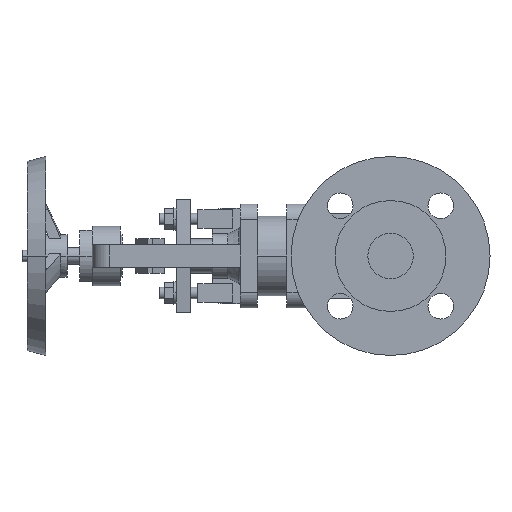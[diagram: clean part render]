
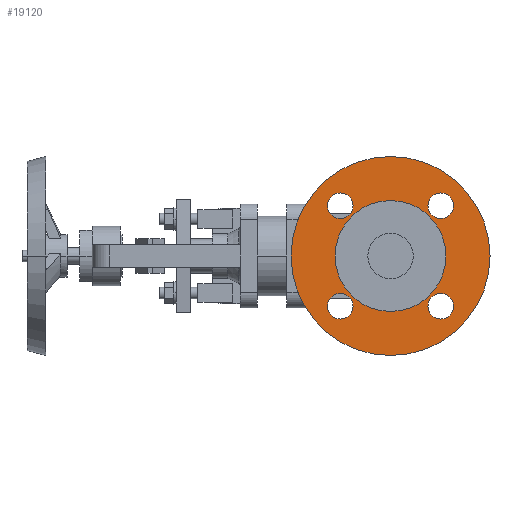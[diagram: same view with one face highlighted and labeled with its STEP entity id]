
A CAD part, left-side view. The second image highlights one B-rep face of the part: STEP entity #19120.
In plain terms, the highlighted planar face has unit normal (-1, 0, 0).
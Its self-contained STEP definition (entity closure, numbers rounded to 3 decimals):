
#610=CARTESIAN_POINT('',(2.,39.,0.));
#620=VERTEX_POINT('',#610);
#650=CARTESIAN_POINT('',(2.,0.,0.));
#660=DIRECTION('',(-1.,0.,0.));
#670=DIRECTION('',(0.,1.,0.));
#680=AXIS2_PLACEMENT_3D('',#650,#660,#670);
#690=CIRCLE('',#680,39.);
#700=CARTESIAN_POINT('',(2.,-39.,0.));
#710=VERTEX_POINT('',#700);
#720=EDGE_CURVE('',#710,#620,#690,.T.);
#3330=CARTESIAN_POINT('',(2.,0.,70.));
#3340=VERTEX_POINT('',#3330);
#3370=CARTESIAN_POINT('',(2.,0.,0.));
#3380=DIRECTION('',(1.,0.,0.));
#3390=DIRECTION('',(0.,0.,-1.));
#3400=AXIS2_PLACEMENT_3D('',#3370,#3380,#3390);
#3410=CIRCLE('',#3400,70.);
#3420=CARTESIAN_POINT('',(2.,0.,-70.));
#3430=VERTEX_POINT('',#3420);
#3440=EDGE_CURVE('',#3430,#3340,#3410,.T.);
#3820=CARTESIAN_POINT('',(2.,35.355,-26.355));
#3830=VERTEX_POINT('',#3820);
#3990=CARTESIAN_POINT('',(2.,35.355,-44.355));
#4000=VERTEX_POINT('',#3990);
#4030=CARTESIAN_POINT('',(2.,35.355,-35.355));
#4040=DIRECTION('',(1.,0.,0.));
#4050=DIRECTION('',(0.,0.,-1.));
#4060=AXIS2_PLACEMENT_3D('',#4030,#4040,#4050);
#4070=CIRCLE('',#4060,9.);
#4080=EDGE_CURVE('',#4000,#3830,#4070,.T.);
#4310=CARTESIAN_POINT('',(2.,-35.355,-44.355));
#4320=VERTEX_POINT('',#4310);
#4350=CARTESIAN_POINT('',(2.,-35.355,-35.355));
#4360=DIRECTION('',(1.,0.,0.));
#4370=DIRECTION('',(0.,0.,-1.));
#4380=AXIS2_PLACEMENT_3D('',#4350,#4360,#4370);
#4390=CIRCLE('',#4380,9.);
#4400=CARTESIAN_POINT('',(2.,-35.355,-26.355));
#4410=VERTEX_POINT('',#4400);
#4420=EDGE_CURVE('',#4320,#4410,#4390,.T.);
#4800=CARTESIAN_POINT('',(2.,35.355,26.355));
#4810=VERTEX_POINT('',#4800);
#4970=CARTESIAN_POINT('',(2.,35.355,44.355));
#4980=VERTEX_POINT('',#4970);
#5010=CARTESIAN_POINT('',(2.,35.355,35.355));
#5020=DIRECTION('',(1.,0.,0.));
#5030=DIRECTION('',(0.,0.,-1.));
#5040=AXIS2_PLACEMENT_3D('',#5010,#5020,#5030);
#5050=CIRCLE('',#5040,9.);
#5060=EDGE_CURVE('',#4980,#4810,#5050,.T.);
#5290=CARTESIAN_POINT('',(2.,-35.355,44.355));
#5300=VERTEX_POINT('',#5290);
#5460=CARTESIAN_POINT('',(2.,-35.355,26.355));
#5470=VERTEX_POINT('',#5460);
#5500=CARTESIAN_POINT('',(2.,-35.355,35.355));
#5510=DIRECTION('',(1.,0.,0.));
#5520=DIRECTION('',(0.,0.,-1.));
#5530=AXIS2_PLACEMENT_3D('',#5500,#5510,#5520);
#5540=CIRCLE('',#5530,9.);
#5550=EDGE_CURVE('',#5470,#5300,#5540,.T.);
#18770=CARTESIAN_POINT('',(2.,0.,0.));
#18780=DIRECTION('',(1.,0.,0.));
#18790=DIRECTION('',(0.,0.,-1.));
#18800=AXIS2_PLACEMENT_3D('',#18770,#18780,#18790);
#18810=PLANE('',#18800);
#18820=EDGE_CURVE('',#5300,#5470,#5540,.T.);
#18830=ORIENTED_EDGE('',*,*,#18820,.T.);
#18840=ORIENTED_EDGE('',*,*,#5550,.T.);
#18850=EDGE_LOOP('',(#18840,#18830));
#18860=FACE_BOUND('',#18850,.T.);
#18870=EDGE_CURVE('',#4810,#4980,#5050,.T.);
#18880=ORIENTED_EDGE('',*,*,#18870,.T.);
#18890=ORIENTED_EDGE('',*,*,#5060,.T.);
#18900=EDGE_LOOP('',(#18890,#18880));
#18910=FACE_BOUND('',#18900,.T.);
#18920=EDGE_CURVE('',#4410,#4320,#4390,.T.);
#18930=ORIENTED_EDGE('',*,*,#18920,.T.);
#18940=ORIENTED_EDGE('',*,*,#4420,.T.);
#18950=EDGE_LOOP('',(#18940,#18930));
#18960=FACE_BOUND('',#18950,.T.);
#18970=EDGE_CURVE('',#3830,#4000,#4070,.T.);
#18980=ORIENTED_EDGE('',*,*,#18970,.T.);
#18990=ORIENTED_EDGE('',*,*,#4080,.T.);
#19000=EDGE_LOOP('',(#18990,#18980));
#19010=FACE_BOUND('',#19000,.T.);
#19020=EDGE_CURVE('',#3340,#3430,#3410,.T.);
#19030=ORIENTED_EDGE('',*,*,#19020,.F.);
#19040=ORIENTED_EDGE('',*,*,#3440,.F.);
#19050=EDGE_LOOP('',(#19040,#19030));
#19060=FACE_OUTER_BOUND('',#19050,.T.);
#19070=ORIENTED_EDGE('',*,*,#720,.F.);
#19080=EDGE_CURVE('',#620,#710,#690,.T.);
#19090=ORIENTED_EDGE('',*,*,#19080,.F.);
#19100=EDGE_LOOP('',(#19090,#19070));
#19110=FACE_BOUND('',#19100,.T.);
#19120=ADVANCED_FACE('',(#18860,#18910,#18960,#19010,#19060,#19110),
#18810,.F.);
